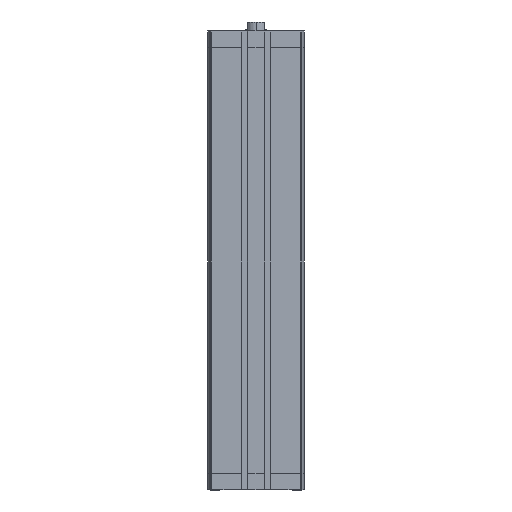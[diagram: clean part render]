
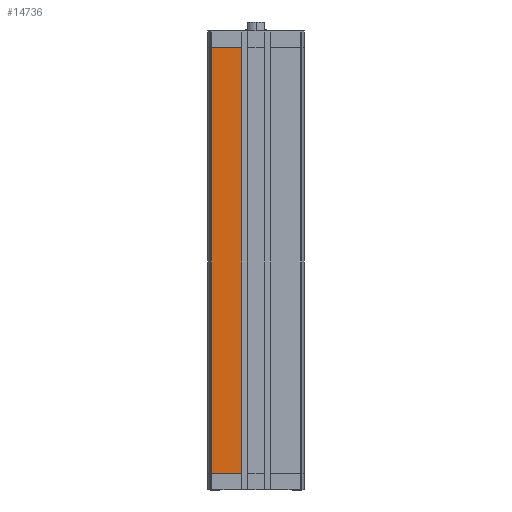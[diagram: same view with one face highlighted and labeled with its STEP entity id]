
A CAD part, left-side view. The second image highlights one B-rep face of the part: STEP entity #14736.
In plain terms, the highlighted planar face has unit normal (-1, 0, 0).
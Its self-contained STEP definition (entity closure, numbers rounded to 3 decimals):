
#778 = VECTOR ( 'NONE', #6848, 1000. ) ;
#873 = EDGE_LOOP ( 'NONE', ( #7860, #9669, #11885, #5774 ) ) ;
#1592 = EDGE_CURVE ( 'NONE', #7436, #12164, #5188, .T. ) ;
#1833 = DIRECTION ( 'NONE',  ( -1., 0., 0. ) ) ;
#2706 = VECTOR ( 'NONE', #11854, 1000. ) ;
#2887 = VECTOR ( 'NONE', #7557, 1000. ) ;
#3008 = CARTESIAN_POINT ( 'NONE',  ( -47.5, 43.743, -437.5 ) ) ;
#3438 = FACE_OUTER_BOUND ( 'NONE', #873, .T. ) ;
#5133 = VECTOR ( 'NONE', #6194, 1000. ) ;
#5188 = LINE ( 'NONE', #5458, #5133 ) ;
#5458 = CARTESIAN_POINT ( 'NONE',  ( -47.5, 14.3, -437.5 ) ) ;
#5774 = ORIENTED_EDGE ( 'NONE', *, *, #8994, .T. ) ;
#6194 = DIRECTION ( 'NONE',  ( 0., 0., 1. ) ) ;
#6303 = VERTEX_POINT ( 'NONE', #7601 ) ;
#6353 = CARTESIAN_POINT ( 'NONE',  ( -47.5, 0., -16.5 ) ) ;
#6704 = PLANE ( 'NONE',  #8216 ) ;
#6792 = VERTEX_POINT ( 'NONE', #12538 ) ;
#6848 = DIRECTION ( 'NONE',  ( 0., 0., -1. ) ) ;
#6858 = CARTESIAN_POINT ( 'NONE',  ( -47.5, 43.743, -437.5 ) ) ;
#7436 = VERTEX_POINT ( 'NONE', #14591 ) ;
#7557 = DIRECTION ( 'NONE',  ( 0., 1., 0. ) ) ;
#7601 = CARTESIAN_POINT ( 'NONE',  ( -47.5, 43.743, -16.5 ) ) ;
#7860 = ORIENTED_EDGE ( 'NONE', *, *, #14372, .T. ) ;
#8216 = AXIS2_PLACEMENT_3D ( 'NONE', #3008, #1833, #10310 ) ;
#8994 = EDGE_CURVE ( 'NONE', #6303, #6792, #13551, .T. ) ;
#9499 = CARTESIAN_POINT ( 'NONE',  ( -47.5, 14.3, -16.5 ) ) ;
#9669 = ORIENTED_EDGE ( 'NONE', *, *, #1592, .T. ) ;
#10310 = DIRECTION ( 'NONE',  ( 0., 0., 1. ) ) ;
#10694 = CARTESIAN_POINT ( 'NONE',  ( -47.5, 43.743, -437.5 ) ) ;
#11854 = DIRECTION ( 'NONE',  ( 0., -1., 0. ) ) ;
#11885 = ORIENTED_EDGE ( 'NONE', *, *, #14582, .T. ) ;
#12164 = VERTEX_POINT ( 'NONE', #9499 ) ;
#12263 = LINE ( 'NONE', #10694, #2706 ) ;
#12461 = LINE ( 'NONE', #6353, #2887 ) ;
#12538 = CARTESIAN_POINT ( 'NONE',  ( -47.5, 43.743, -437.5 ) ) ;
#13551 = LINE ( 'NONE', #6858, #778 ) ;
#14372 = EDGE_CURVE ( 'NONE', #6792, #7436, #12263, .T. ) ;
#14582 = EDGE_CURVE ( 'NONE', #12164, #6303, #12461, .T. ) ;
#14591 = CARTESIAN_POINT ( 'NONE',  ( -47.5, 14.3, -437.5 ) ) ;
#14736 = ADVANCED_FACE ( 'NONE', ( #3438 ), #6704, .T. ) ;
